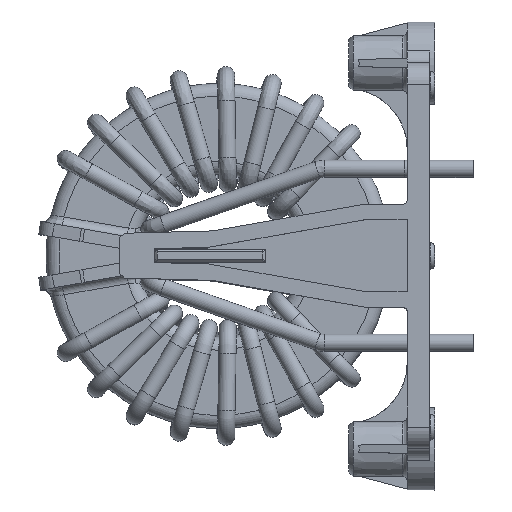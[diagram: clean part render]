
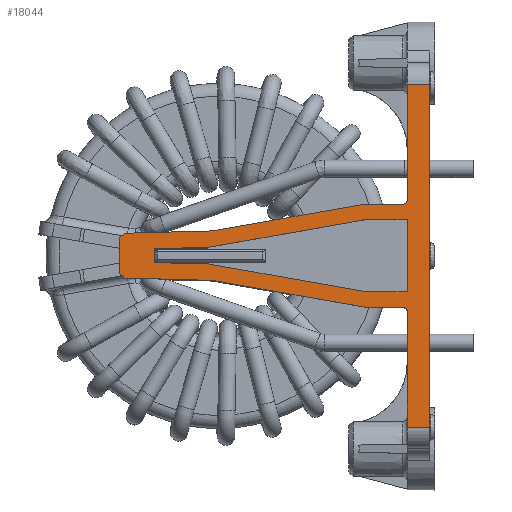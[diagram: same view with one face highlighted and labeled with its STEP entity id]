
A CAD part, top view. The second image highlights one B-rep face of the part: STEP entity #18044.
In plain terms, the highlighted planar face has unit normal (0, 0, 1).
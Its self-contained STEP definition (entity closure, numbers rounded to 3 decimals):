
#17825=CARTESIAN_POINT('',(-11.5,3.1,35.63));
#17826=VERTEX_POINT('',#17825);
#17833=CARTESIAN_POINT('',(-11.,3.613,35.63));
#17834=VERTEX_POINT('',#17833);
#17835=CARTESIAN_POINT('',(-11.5,3.1,35.63));
#17836=DIRECTION('',(0.698,0.716,0.0));
#17837=VECTOR('',#17836,0.716);
#17838=LINE('',#17835,#17837);
#17839=EDGE_CURVE('',#17826,#17834,#17838,.T.);
#17850=CARTESIAN_POINT('',(22.,-21.5,35.63));
#17851=DIRECTION('',(0.0,0.0,1.0));
#17852=DIRECTION('',(1.0,0.0,0.0));
#17853=AXIS2_PLACEMENT_3D('',#17850,#17851,#17852);
#17854=PLANE('',#17853);
#17855=ORIENTED_EDGE('',*,*,#17839,.F.);
#17856=CARTESIAN_POINT('',(-11.5,-1.1,35.63));
#17857=VERTEX_POINT('',#17856);
#17858=CARTESIAN_POINT('',(-11.5,3.1,35.63));
#17859=DIRECTION('',(0.0,-1.0,0.0));
#17860=VECTOR('',#17859,4.2);
#17861=LINE('',#17858,#17860);
#17862=EDGE_CURVE('',#17826,#17857,#17861,.T.);
#17863=ORIENTED_EDGE('',*,*,#17862,.T.);
#17864=CARTESIAN_POINT('',(-11.,-1.613,35.63));
#17865=VERTEX_POINT('',#17864);
#17866=CARTESIAN_POINT('',(-11.,-1.613,35.63));
#17867=DIRECTION('',(-0.698,0.716,0.0));
#17868=VECTOR('',#17867,0.716);
#17869=LINE('',#17866,#17868);
#17870=EDGE_CURVE('',#17865,#17857,#17869,.T.);
#17871=ORIENTED_EDGE('',*,*,#17870,.F.);
#17872=CARTESIAN_POINT('',(-0.675,-1.883,35.63));
#17873=VERTEX_POINT('',#17872);
#17874=CARTESIAN_POINT('',(-11.,-1.613,35.63));
#17875=DIRECTION('',(1.,-0.026,0.));
#17876=VECTOR('',#17875,10.329);
#17877=LINE('',#17874,#17876);
#17878=EDGE_CURVE('',#17865,#17873,#17877,.T.);
#17879=ORIENTED_EDGE('',*,*,#17878,.T.);
#17880=CARTESIAN_POINT('',(17.,-5.,35.63));
#17881=VERTEX_POINT('',#17880);
#17882=CARTESIAN_POINT('',(-0.675,-1.883,35.63));
#17883=DIRECTION('',(0.985,-0.174,0.));
#17884=VECTOR('',#17883,17.947);
#17885=LINE('',#17882,#17884);
#17886=EDGE_CURVE('',#17873,#17881,#17885,.T.);
#17887=ORIENTED_EDGE('',*,*,#17886,.T.);
#17888=CARTESIAN_POINT('',(21.5,-5.,35.63));
#17889=VERTEX_POINT('',#17888);
#17890=CARTESIAN_POINT('',(17.,-5.,35.63));
#17891=DIRECTION('',(1.0,0.0,0.0));
#17892=VECTOR('',#17891,4.5);
#17893=LINE('',#17890,#17892);
#17894=EDGE_CURVE('',#17881,#17889,#17893,.T.);
#17895=ORIENTED_EDGE('',*,*,#17894,.T.);
#17896=CARTESIAN_POINT('',(22.,-5.5,35.63));
#17897=VERTEX_POINT('',#17896);
#17898=CARTESIAN_POINT('',(21.5,-5.5,35.63));
#17899=DIRECTION('',(0.,0.,1.));
#17900=DIRECTION('',(0.707,0.707,0.));
#17901=AXIS2_PLACEMENT_3D('',#17898,#17899,#17900);
#17902=CIRCLE('',#17901,0.5);
#17903=EDGE_CURVE('',#17897,#17889,#17902,.T.);
#17904=ORIENTED_EDGE('',*,*,#17903,.F.);
#17905=CARTESIAN_POINT('',(22.,-19.,35.63));
#17906=VERTEX_POINT('',#17905);
#17907=CARTESIAN_POINT('',(22.,-19.,35.63));
#17908=DIRECTION('',(0.0,1.0,0.0));
#17909=VECTOR('',#17908,13.5);
#17910=LINE('',#17907,#17909);
#17911=EDGE_CURVE('',#17906,#17897,#17910,.T.);
#17912=ORIENTED_EDGE('',*,*,#17911,.F.);
#17913=CARTESIAN_POINT('',(24.6,-19.,35.63));
#17914=VERTEX_POINT('',#17913);
#17915=CARTESIAN_POINT('',(22.,-19.,35.63));
#17916=DIRECTION('',(1.0,0.0,0.0));
#17917=VECTOR('',#17916,2.6);
#17918=LINE('',#17915,#17917);
#17919=EDGE_CURVE('',#17906,#17914,#17918,.T.);
#17920=ORIENTED_EDGE('',*,*,#17919,.T.);
#17921=CARTESIAN_POINT('',(24.6,21.,35.63));
#17922=VERTEX_POINT('',#17921);
#17923=CARTESIAN_POINT('',(24.6,-19.,35.63));
#17924=DIRECTION('',(0.0,1.0,0.0));
#17925=VECTOR('',#17924,40.0);
#17926=LINE('',#17923,#17925);
#17927=EDGE_CURVE('',#17914,#17922,#17926,.T.);
#17928=ORIENTED_EDGE('',*,*,#17927,.T.);
#17929=CARTESIAN_POINT('',(22.,21.,35.63));
#17930=VERTEX_POINT('',#17929);
#17931=CARTESIAN_POINT('',(22.,21.,35.63));
#17932=DIRECTION('',(1.0,0.0,0.0));
#17933=VECTOR('',#17932,2.6);
#17934=LINE('',#17931,#17933);
#17935=EDGE_CURVE('',#17930,#17922,#17934,.T.);
#17936=ORIENTED_EDGE('',*,*,#17935,.F.);
#17937=CARTESIAN_POINT('',(22.,7.5,35.63));
#17938=VERTEX_POINT('',#17937);
#17939=CARTESIAN_POINT('',(22.,7.5,35.63));
#17940=DIRECTION('',(0.0,1.0,0.0));
#17941=VECTOR('',#17940,13.5);
#17942=LINE('',#17939,#17941);
#17943=EDGE_CURVE('',#17938,#17930,#17942,.T.);
#17944=ORIENTED_EDGE('',*,*,#17943,.F.);
#17945=CARTESIAN_POINT('',(21.5,7.,35.63));
#17946=VERTEX_POINT('',#17945);
#17947=CARTESIAN_POINT('',(21.5,7.5,35.63));
#17948=DIRECTION('',(0.,0.,1.));
#17949=DIRECTION('',(0.707,-0.707,0.));
#17950=AXIS2_PLACEMENT_3D('',#17947,#17948,#17949);
#17951=CIRCLE('',#17950,0.5);
#17952=EDGE_CURVE('',#17946,#17938,#17951,.T.);
#17953=ORIENTED_EDGE('',*,*,#17952,.F.);
#17954=CARTESIAN_POINT('',(17.,7.,35.63));
#17955=VERTEX_POINT('',#17954);
#17956=CARTESIAN_POINT('',(21.5,7.,35.63));
#17957=DIRECTION('',(-1.0,0.0,0.0));
#17958=VECTOR('',#17957,4.5);
#17959=LINE('',#17956,#17958);
#17960=EDGE_CURVE('',#17946,#17955,#17959,.T.);
#17961=ORIENTED_EDGE('',*,*,#17960,.T.);
#17962=CARTESIAN_POINT('',(-0.675,3.883,35.63));
#17963=VERTEX_POINT('',#17962);
#17964=CARTESIAN_POINT('',(17.,7.,35.63));
#17965=DIRECTION('',(-0.985,-0.174,0.));
#17966=VECTOR('',#17965,17.947);
#17967=LINE('',#17964,#17966);
#17968=EDGE_CURVE('',#17955,#17963,#17967,.T.);
#17969=ORIENTED_EDGE('',*,*,#17968,.T.);
#17970=CARTESIAN_POINT('',(-0.675,3.883,35.63));
#17971=DIRECTION('',(-1.,-0.026,0.));
#17972=VECTOR('',#17971,10.329);
#17973=LINE('',#17970,#17972);
#17974=EDGE_CURVE('',#17963,#17834,#17973,.T.);
#17975=ORIENTED_EDGE('',*,*,#17974,.T.);
#17976=EDGE_LOOP('',(#17855,#17863,#17871,#17879,#17887,#17895,#17904,#17912,#17920,#17928,#17936,#17944,#17953,#17961,#17969,#17975));
#17977=FACE_OUTER_BOUND('',#17976,.T.);
#17978=CARTESIAN_POINT('',(-7.5,1.807,35.63));
#17979=VERTEX_POINT('',#17978);
#17980=CARTESIAN_POINT('',(-1.143,1.973,35.63));
#17981=VERTEX_POINT('',#17980);
#17982=CARTESIAN_POINT('',(-7.5,1.807,35.63));
#17983=DIRECTION('',(1.,0.026,0.));
#17984=VECTOR('',#17983,6.36);
#17985=LINE('',#17982,#17984);
#17986=EDGE_CURVE('',#17979,#17981,#17985,.T.);
#17987=ORIENTED_EDGE('',*,*,#17986,.T.);
#17988=CARTESIAN_POINT('',(17.157,5.2,35.63));
#17989=VERTEX_POINT('',#17988);
#17990=CARTESIAN_POINT('',(-1.143,1.973,35.63));
#17991=DIRECTION('',(0.985,0.174,0.0));
#17992=VECTOR('',#17991,18.582);
#17993=LINE('',#17990,#17992);
#17994=EDGE_CURVE('',#17981,#17989,#17993,.T.);
#17995=ORIENTED_EDGE('',*,*,#17994,.T.);
#17996=CARTESIAN_POINT('',(22.,5.2,35.63));
#17997=VERTEX_POINT('',#17996);
#17998=CARTESIAN_POINT('',(17.157,5.2,35.63));
#17999=DIRECTION('',(1.0,0.0,0.0));
#18000=VECTOR('',#17999,4.843);
#18001=LINE('',#17998,#18000);
#18002=EDGE_CURVE('',#17989,#17997,#18001,.T.);
#18003=ORIENTED_EDGE('',*,*,#18002,.T.);
#18004=CARTESIAN_POINT('',(22.,-3.2,35.63));
#18005=VERTEX_POINT('',#18004);
#18006=CARTESIAN_POINT('',(22.,5.2,35.63));
#18007=DIRECTION('',(0.0,-1.0,0.0));
#18008=VECTOR('',#18007,8.4);
#18009=LINE('',#18006,#18008);
#18010=EDGE_CURVE('',#17997,#18005,#18009,.T.);
#18011=ORIENTED_EDGE('',*,*,#18010,.T.);
#18012=CARTESIAN_POINT('',(17.157,-3.2,35.63));
#18013=VERTEX_POINT('',#18012);
#18014=CARTESIAN_POINT('',(22.,-3.2,35.63));
#18015=DIRECTION('',(-1.0,0.0,0.0));
#18016=VECTOR('',#18015,4.843);
#18017=LINE('',#18014,#18016);
#18018=EDGE_CURVE('',#18005,#18013,#18017,.T.);
#18019=ORIENTED_EDGE('',*,*,#18018,.T.);
#18020=CARTESIAN_POINT('',(-1.143,0.027,35.63));
#18021=VERTEX_POINT('',#18020);
#18022=CARTESIAN_POINT('',(17.157,-3.2,35.63));
#18023=DIRECTION('',(-0.985,0.174,0.));
#18024=VECTOR('',#18023,18.582);
#18025=LINE('',#18022,#18024);
#18026=EDGE_CURVE('',#18013,#18021,#18025,.T.);
#18027=ORIENTED_EDGE('',*,*,#18026,.T.);
#18028=CARTESIAN_POINT('',(-7.5,0.193,35.63));
#18029=VERTEX_POINT('',#18028);
#18030=CARTESIAN_POINT('',(-1.143,0.027,35.63));
#18031=DIRECTION('',(-1.,0.026,0.0));
#18032=VECTOR('',#18031,6.36);
#18033=LINE('',#18030,#18032);
#18034=EDGE_CURVE('',#18021,#18029,#18033,.T.);
#18035=ORIENTED_EDGE('',*,*,#18034,.T.);
#18036=CARTESIAN_POINT('',(-7.5,0.193,35.63));
#18037=DIRECTION('',(0.0,1.0,0.0));
#18038=VECTOR('',#18037,1.613);
#18039=LINE('',#18036,#18038);
#18040=EDGE_CURVE('',#18029,#17979,#18039,.T.);
#18041=ORIENTED_EDGE('',*,*,#18040,.T.);
#18042=EDGE_LOOP('',(#17987,#17995,#18003,#18011,#18019,#18027,#18035,#18041));
#18043=FACE_BOUND('',#18042,.T.);
#18044=ADVANCED_FACE('',(#17977,#18043),#17854,.T.);
